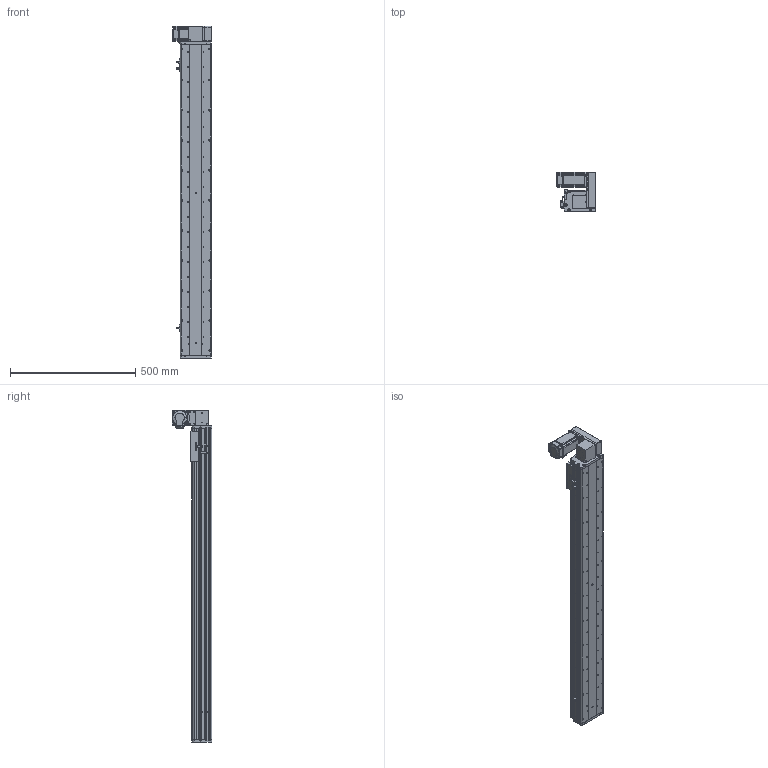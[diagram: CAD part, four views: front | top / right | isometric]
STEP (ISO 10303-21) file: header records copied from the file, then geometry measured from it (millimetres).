
FILE_DESCRIPTION (( 'STEP AP214' ), '1' );
FILE_NAME ('KSD125B-S1050-MLU-CM.STEP', '2017-10-21T03:29:56', ( '微软用户' ), ( '微软中国' ), 'SwSTEP 2.0', 'SolidWorks 2014', '' );
FILE_SCHEMA (( 'AUTOMOTIVE_DESIGN' ));
Length unit declared in the file: millimetre
Products named in the file (17): U倰嫖萇EEㄜSX672; KSD125模组同步带-防撞垫1; 前端板-125宽模组同步带; 125模组同步带-尾端板1; KSD125模组同步带-滑动座1; KSD125B-S1050-MLU-CM; 悵誘欶奻狟殏; 100宽马达安装板连板上下折丝杆同步带; HTPA30S3M150_A_H6_a佪裝蚚; HTPA30S3M150_A_H6_a萇儂蚚; 100宽马达安装板同步带左; KSD125模组1050行程同步带-防尘盖; 125模组1050行程同步带-底板; MHMD042G1CA_2_03; KSD125模组同步带-防撞垫2; 覜茼え68遵圉猾敕; U倰嫖萇假蚾璃
Assembly tree (20 placements, depth 2):
  KSD125B-S1050-MLU-CM
    KSD125模组同步带-滑动座1
    125模组同步带-尾端板1
    前端板-125宽模组同步带
    KSD125模组同步带-防撞垫1
    U倰嫖萇EEㄜSX672  x3
    U倰嫖萇假蚾璃  x3
    覜茼え68遵圉猾敕
    KSD125模组同步带-防撞垫2
    MHMD042G1CA_2_03
    125模组1050行程同步带-底板
    KSD125模组1050行程同步带-防尘盖
    100宽马达安装板同步带左
    HTPA30S3M150_A_H6_a萇儂蚚
    HTPA30S3M150_A_H6_a佪裝蚚
    100宽马达安装板连板上下折丝杆同步带
    悵誘欶奻狟殏
Bounding box: 155 x 157.5 x 1327 mm (x, y, z)
Volume: 4058002.9 mm3; surface area: 1363251.2 mm2
Topology: 19 solids, 22 shells, 2325 faces, 6739 edges, 4454 vertices
Faces by surface type: cylinder 1468, plane 730, cone 105, bspline 22
Entity records: 82901 total; most frequent: CARTESIAN_POINT 16353, DIRECTION 12884, ORIENTED_EDGE 11998, EDGE_CURVE 6077, AXIS2_PLACEMENT_3D 4989, VERTEX_POINT 4046, LINE 2906, VECTOR 2906
